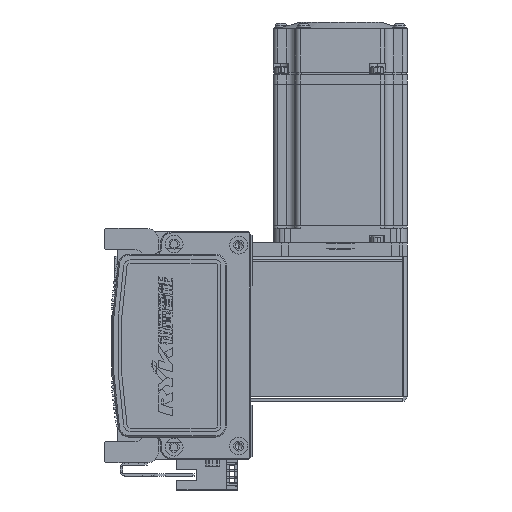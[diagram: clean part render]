
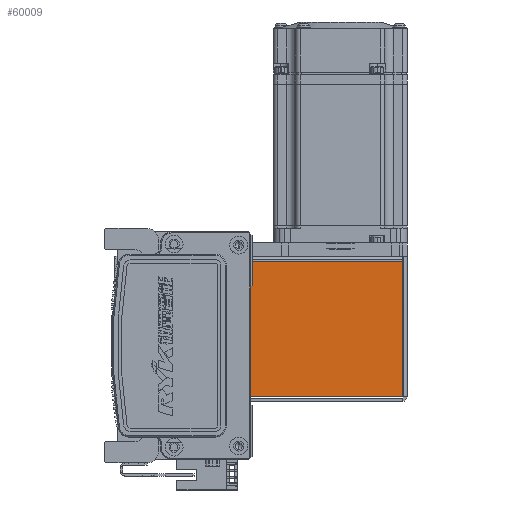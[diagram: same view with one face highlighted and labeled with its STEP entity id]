
A CAD part, left-side view. The second image highlights one B-rep face of the part: STEP entity #60009.
In plain terms, the highlighted planar face has unit normal (-1, 0, 0) as drawn and (0, 0, 1) by its records, which use the part's own axes.
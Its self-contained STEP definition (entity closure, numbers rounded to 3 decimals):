
#1286 = EDGE_CURVE ( 'NONE', #43255, #6184, #48654, .T. ) ;
#4547 = CARTESIAN_POINT ( 'NONE',  ( -32.5, 0.737, 35. ) ) ;
#5038 = CARTESIAN_POINT ( 'NONE',  ( 0., 72.5, 35. ) ) ;
#6184 = VERTEX_POINT ( 'NONE', #68236 ) ;
#10154 = LINE ( 'NONE', #4547, #71277 ) ;
#14665 = CARTESIAN_POINT ( 'NONE',  ( 30.263, 0.737, 35. ) ) ;
#15153 = VECTOR ( 'NONE', #15365, 1000. ) ;
#15365 = DIRECTION ( 'NONE',  ( -1., 0., 0. ) ) ;
#18090 = VERTEX_POINT ( 'NONE', #46878 ) ;
#18187 = EDGE_CURVE ( 'NONE', #20770, #43255, #10154, .T. ) ;
#19418 = VECTOR ( 'NONE', #63845, 1000. ) ;
#20770 = VERTEX_POINT ( 'NONE', #67511 ) ;
#24651 = LINE ( 'NONE', #5038, #15153 ) ;
#25045 = AXIS2_PLACEMENT_3D ( 'NONE', #68726, #40667, #68021 ) ;
#26815 = ORIENTED_EDGE ( 'NONE', *, *, #1286, .F. ) ;
#30120 = CARTESIAN_POINT ( 'NONE',  ( -30.293, 0.737, 35. ) ) ;
#30324 = PLANE ( 'NONE',  #25045 ) ;
#31712 = ORIENTED_EDGE ( 'NONE', *, *, #50130, .T. ) ;
#32638 = LINE ( 'NONE', #14665, #70412 ) ;
#35995 = CARTESIAN_POINT ( 'NONE',  ( -30.293, 0., 35. ) ) ;
#40667 = DIRECTION ( 'NONE',  ( 0., 0., -1. ) ) ;
#41602 = ORIENTED_EDGE ( 'NONE', *, *, #18187, .F. ) ;
#43255 = VERTEX_POINT ( 'NONE', #30120 ) ;
#46878 = CARTESIAN_POINT ( 'NONE',  ( 30.263, 72.5, 35. ) ) ;
#48654 = LINE ( 'NONE', #35995, #19418 ) ;
#50130 = EDGE_CURVE ( 'NONE', #18090, #6184, #24651, .T. ) ;
#53817 = DIRECTION ( 'NONE',  ( -1., 0., 0. ) ) ;
#56378 = ORIENTED_EDGE ( 'NONE', *, *, #61862, .T. ) ;
#56643 = EDGE_LOOP ( 'NONE', ( #56378, #31712, #26815, #41602 ) ) ;
#60009 = ADVANCED_FACE ( 'NONE', ( #61492 ), #30324, .F. ) ;
#61492 = FACE_OUTER_BOUND ( 'NONE', #56643, .T. ) ;
#61862 = EDGE_CURVE ( 'NONE', #20770, #18090, #32638, .T. ) ;
#62503 = DIRECTION ( 'NONE',  ( 0., 1., 0. ) ) ;
#63845 = DIRECTION ( 'NONE',  ( 0., 1., 0. ) ) ;
#67511 = CARTESIAN_POINT ( 'NONE',  ( 30.263, 0.737, 35. ) ) ;
#68021 = DIRECTION ( 'NONE',  ( -1., 0., 0. ) ) ;
#68236 = CARTESIAN_POINT ( 'NONE',  ( -30.293, 72.5, 35. ) ) ;
#68726 = CARTESIAN_POINT ( 'NONE',  ( 0., 0., 35. ) ) ;
#70412 = VECTOR ( 'NONE', #62503, 1000. ) ;
#71277 = VECTOR ( 'NONE', #53817, 1000. ) ;
